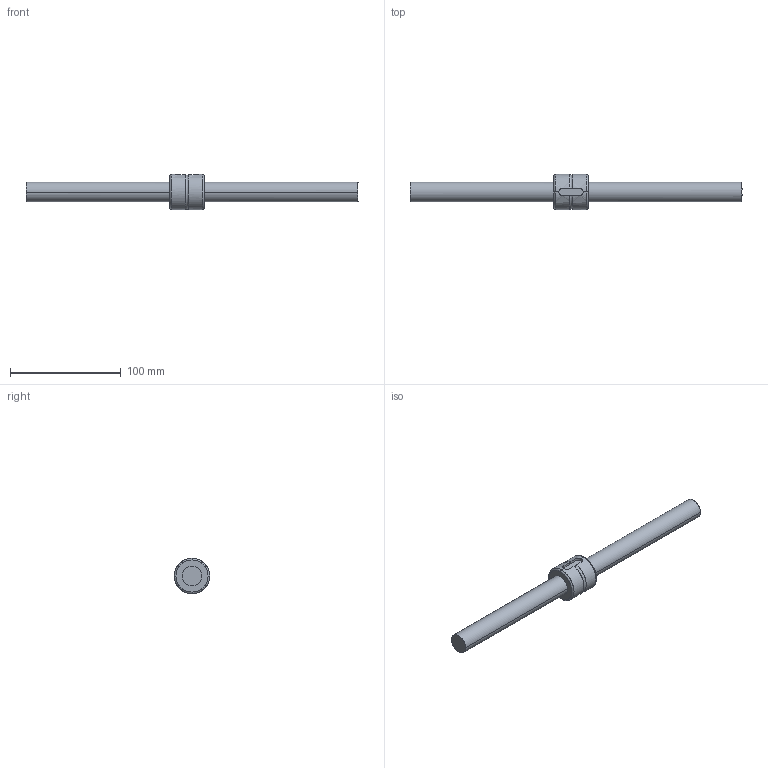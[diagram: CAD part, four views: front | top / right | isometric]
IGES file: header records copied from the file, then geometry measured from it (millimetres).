
Global section: file name: No Iges File Name specified; native system: AutoDesk Inventor R10; preprocessor: AutoDesk Inventor Iges Exporter R10; author: No Author specified; organization: No Organization specified; date: 20101224.155136; units: millimetre
Bounding box: 300 x 32 x 32 mm (x, y, z)
Surface area: 23473.1 mm2 (no closed solid volume)
Topology: 0 solids, 0 shells, 25 faces, 215 edges, 215 vertices
Faces by surface type: bspline 25
